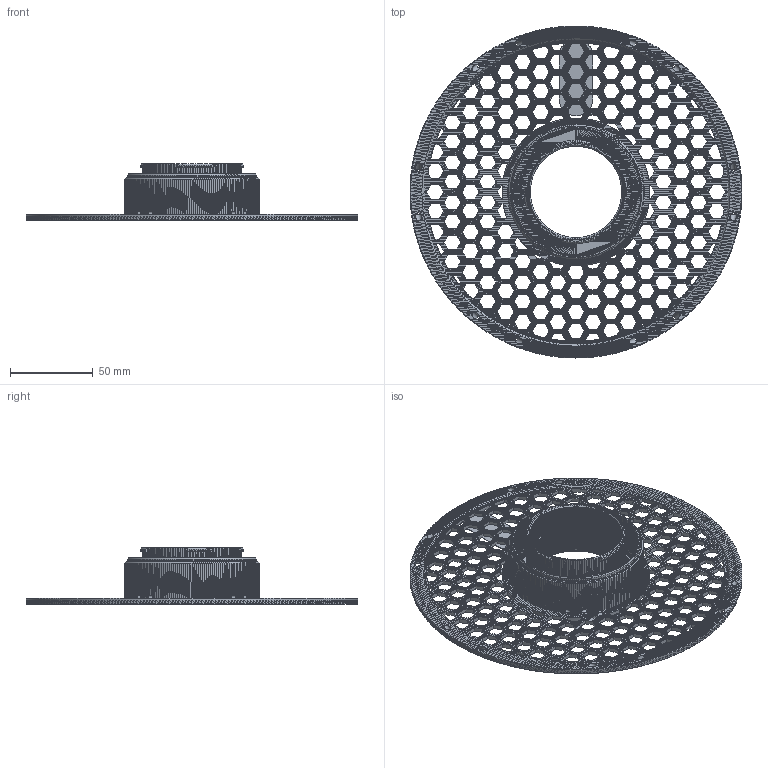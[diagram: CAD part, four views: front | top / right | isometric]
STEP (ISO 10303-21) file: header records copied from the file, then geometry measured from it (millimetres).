
FILE_DESCRIPTION(/* description */ (''),/* implementation_level */ '2;1');
FILE_NAME(/* name */ 'bambu_spool_narrow_modded v14.step',/* time_stamp */ '2023-02-04T12:01:41+01:00',/* author */ (''),/* organization */ (''),/* preprocessor_version */ 'ST-DEVELOPER v19.2',/* originating_system */ 'Autodesk Translation Framework v11.17.0.187',/* authorisation */ '');
FILE_SCHEMA (('AUTOMOTIVE_DESIGN { 1 0 10303 214 3 1 1 }'));
Products named in the file (1): bambu_spool_narrow_modded
Bounding box: 200 x 200 x 34.1 mm (x, y, z)
Volume: 82563.1 mm3; surface area: 78608.1 mm2
Topology: 1 solids, 1 shells, 21529 faces, 45387 edges, 23470 vertices
Faces by surface type: plane 21443, cylinder 86
Full cylindrical faces by diameter (mm): 2.2 x8, 3.5 x12
Entity records: 543076 total; most frequent: ORIENTED_EDGE 91596, CARTESIAN_POINT 91287, DIRECTION 90981, EDGE_CURVE 45798, LINE 43675, VECTOR 43675, VERTEX_POINT 23959, AXIS2_PLACEMENT_3D 23653
